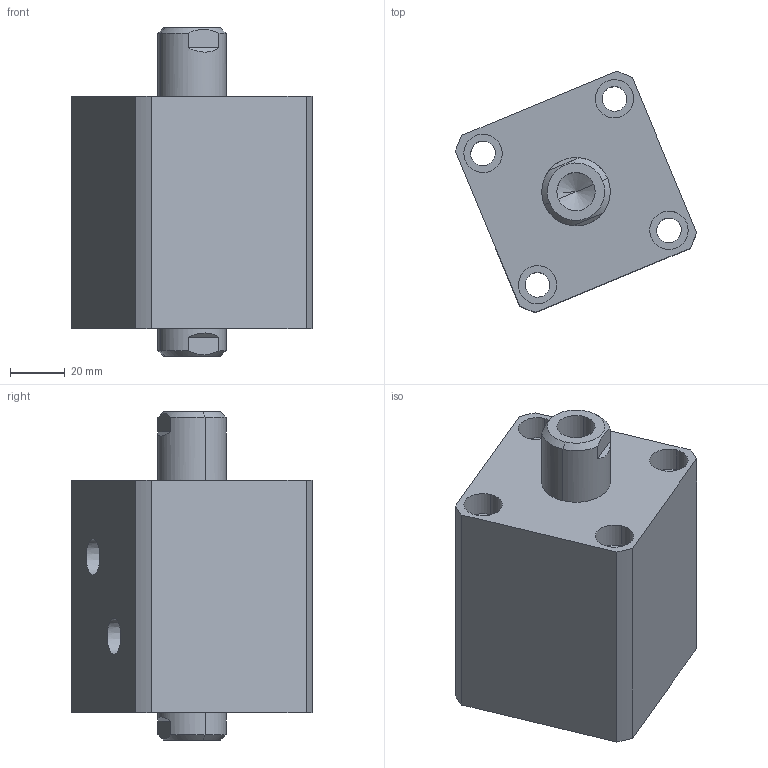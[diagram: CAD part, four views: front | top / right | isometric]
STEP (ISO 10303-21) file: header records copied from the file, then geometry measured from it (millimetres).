
FILE_DESCRIPTION (( 'STEP AP214' ), '1' );
FILE_NAME ('chtb-sw40x15n_asm.STEP', '2018-06-08T11:16:22', ( 'Windows' ), ( 'Microsoft' ), 'SwSTEP 2.0', 'SolidWorks 2015', '' );
FILE_SCHEMA (( 'AUTOMOTIVE_DESIGN' ));
Length unit declared in the file: millimetre
Products named in the file (4): CHTB-SW40X15NHSG; CHTB-SW40X15NBT; CHTB-SD40QG; chtb-sw40x15n_asm
Assembly tree (3 placements, depth 2):
  chtb-sw40x15n_asm
    CHTB-SD40QG
    CHTB-SW40X15NBT
    CHTB-SW40X15NHSG
Bounding box: 88.11 x 88.11 x 120 mm (x, y, z)
Volume: 378178.9 mm3; surface area: 78029.1 mm2
Topology: 3 solids, 3 shells, 167 faces, 429 edges, 282 vertices
Faces by surface type: cylinder 84, plane 40, cone 17, bspline 14, torus 12
Entity records: 10325 total; most frequent: CARTESIAN_POINT 6131, ORIENTED_EDGE 838, DIRECTION 822, EDGE_CURVE 419, AXIS2_PLACEMENT_3D 348, VERTEX_POINT 282, EDGE_LOOP 207, CIRCLE 189
